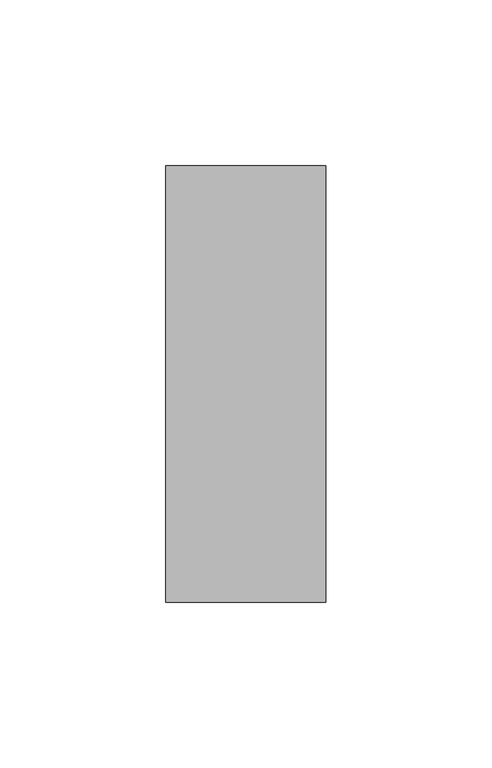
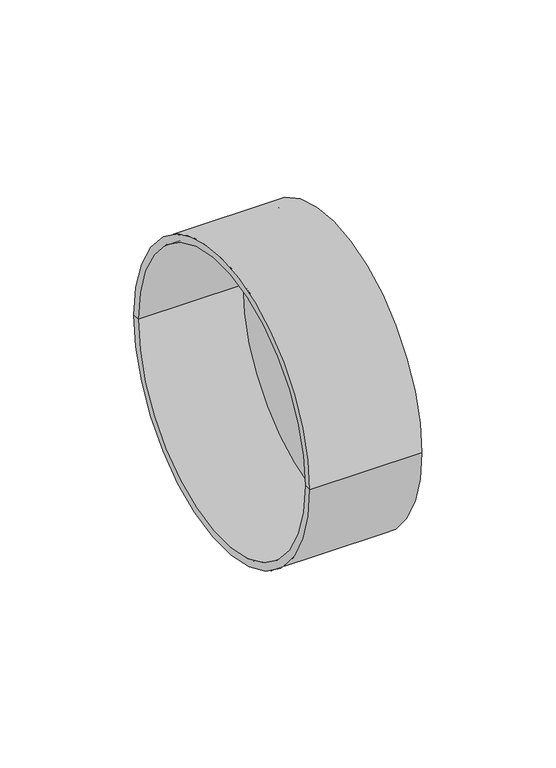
"""IFC4 building model written with IfcOpenShell, lengths in millimetres: pipe fitting geometry, pf_KGK_vicko : pf_KGK_vicko."""

from ifc_helpers import new_model, si_unit, frame, origin, place, context, project, spatial, polyline, circle_curve, source, transform, mapped, element, save
from ifc_brep_helpers import plane_surface, cylinder_surface, revolved_surface, advanced_brep


def pipe_fitting_927fa2d2(model_context):
    return source(origin(), model_context, "Body", "AdvancedBrep", [
        advanced_brep(
        [(-45.0, -65.7, 0.0), (-45.0, 65.7, 0.0), (3.2, 65.7, 0.0), (3.2, -65.7, 0.0), (-45.0, -62.5, 0.0), (-45.0, 62.5, 0.0), (0.0, -62.5, 0.0), (0.0, 62.5, 0.0), (0.0, 0.0, 0.0), (3.2, 0.0, 0.0)],
        [
            (0, 1, circle_curve(frame((-45.0, 0.0, 0.0), z_axis=(1.0, 0.0, 0.0), x_axis=(0.0, 1.0, 0.0)), 65.7)),
            (1, 2),
            (2, 3, circle_curve(frame((3.2, 0.0, 0.0), z_axis=(-1.0, 0.0, 0.0), x_axis=(0.0, 1.0, 0.0)), 65.7)),
            (3, 0),
            (1, 0, circle_curve(frame((-45.0, 0.0, 0.0), z_axis=(1.0, 0.0, 0.0), x_axis=(0.0, 1.0, 0.0)), 65.7)),
            (3, 2, circle_curve(frame((3.2, 0.0, 0.0), z_axis=(-1.0, 0.0, 0.0), x_axis=(0.0, 1.0, 0.0)), 65.7)),
            (4, 5, circle_curve(frame((-45.0, 0.0, 0.0), z_axis=(1.0, 0.0, 0.0), x_axis=(0.0, 1.0, 0.0)), 62.5)),
            (5, 1),
            (0, 4),
            (5, 4, circle_curve(frame((-45.0, 0.0, 0.0), z_axis=(1.0, 0.0, 0.0), x_axis=(0.0, 1.0, 0.0)), 62.5)),
            (6, 7, circle_curve(frame((0.0, 0.0, 0.0), z_axis=(1.0, 0.0, 0.0), x_axis=(0.0, 1.0, 0.0)), 62.5)),
            (7, 5),
            (4, 6),
            (7, 6, circle_curve(frame((0.0, 0.0, 0.0), z_axis=(1.0, 0.0, 0.0), x_axis=(0.0, 1.0, 0.0)), 62.5)),
            (8, 7),
            (6, 8),
            (2, 9),
            (9, 3),
        ],
        [
            cylinder_surface(frame((-36.0241529, 0.0, 0.0), z_axis=(-1.0, 0.0, 0.0), x_axis=(0.0, 1.0, 0.0)), 65.7),
            plane_surface(frame((-45.0, 0.0, 0.0), z_axis=(-1.0, 0.0, 0.0), x_axis=(0.0, 1.0, 0.0))),
            revolved_surface(polyline([(-45.0, 62.5, 0.0), (0.0, 62.5, 0.0)]), (-36.0241529, 0.0, 0.0), (-1.0, 0.0, 0.0)),
            plane_surface(frame((0.0, 0.0, 0.0), z_axis=(-1.0, 0.0, 0.0), x_axis=(0.0, 1.0, 0.0))),
            plane_surface(frame((3.2, 0.0, 0.0), z_axis=(1.0, 0.0, 0.0), x_axis=(0.0, 1.0, 0.0))),
        ],
        [
            (0, [[1, 2, 3, 4]]),
            (0, [[5, -4, 6, -2]]),
            (1, [[7, 8, -1, 9]]),
            (1, [[10, -9, -5, -8]]),
            (2, [[11, 12, -7, 13]]),
            (2, [[14, -13, -10, -12]]),
            (3, [[15, -11, 16]]),
            (3, [[-16, -14, -15]]),
            (4, [[-3, 17, 18]]),
            (4, [[-6, -18, -17]]),
        ],
    ),
    ])


if __name__ == "__main__":
    model = new_model("IFC4")
    model_context = context("Model", 3, world=origin())
    ifc_project = project(units=[si_unit("LENGTHUNIT", "METRE", prefix="MILLI")], contexts=[model_context])
    site = spatial("IfcSite", under=ifc_project)
    building = spatial("IfcBuilding", under=site)
    placement = place(None, origin())
    pipe_fitting_shape = pipe_fitting_927fa2d2(model_context)
    element("IfcPipeFitting", 1, ObjectType="pf_KGK_vicko : pf_KGK_vicko", at=placement, inside=building, context=model_context, shape_type="MappedRepresentation", body=[
        mapped(pipe_fitting_shape, transform((0.0, 0.0, 0.0), x_axis=(1.0, 0.0, 0.0), y_axis=(0.0, 1.0, 0.0), z_axis=(0.0, 0.0, 1.0))),
    ])
    save(model, "model.ifc")
